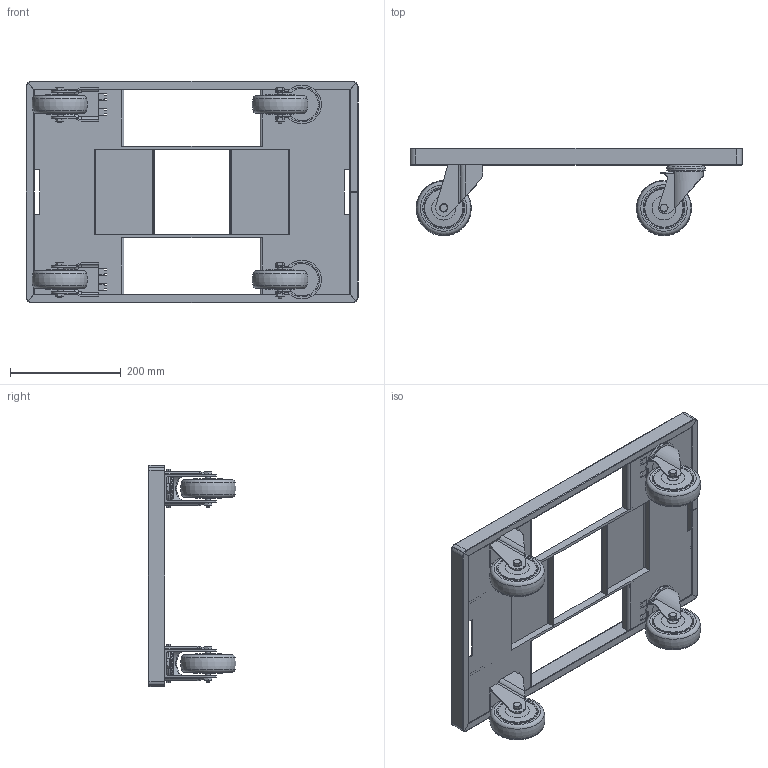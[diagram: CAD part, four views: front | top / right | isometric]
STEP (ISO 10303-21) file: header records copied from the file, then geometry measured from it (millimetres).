
FILE_DESCRIPTION(/* description */ ('STEP AP214'),/* implementation_level */ '2;1');
FILE_NAME(/* name */ '0207D1F2S2WDS03',/* time_stamp */ '2026-01-21T14:38:50+01:00',/* author */ ('License CC BY-ND 4.0'),/* organization */ ('CADENAS'),/* preprocessor_version */ 'ST-DEVELOPER v20',/* originating_system */ 'PARTsolutions',/* authorisation */ ' ');
FILE_SCHEMA (('AUTOMOTIVE_DESIGN {1 0 10303 214 3 1 1}'));
Length unit declared in the file: millimetre
Products named in the file (7): 0207D1F2S2WDS03; 0207D1F2S2WDS03_1; 0207D1F2S2WDS03_2; 0207D1F2S2WDS03_4; 0207D1F2S2WDS03_4b; 0207D1F2S2WDS03_3; 0207D1F2S2WDS03_3b
Assembly tree (13 placements, depth 2):
  0207D1F2S2WDS03
    0207D1F2S2WDS03_1
    0207D1F2S2WDS03_2  x4
    0207D1F2S2WDS03_4  x2
    0207D1F2S2WDS03_4b  x2
    0207D1F2S2WDS03_3  x2
    0207D1F2S2WDS03_3b  x2
Bounding box: 600 x 157.59 x 400 mm (x, y, z)
Volume: 2426381.2 mm3; surface area: 729557.3 mm2
Topology: 13 solids, 13 shells, 706 faces, 1754 edges, 1112 vertices
Faces by surface type: plane 418, cylinder 150, torus 82, cone 56
Full cylindrical faces by diameter (mm): 8 x6, 8.5 x4, 10 x4, 12.5 x2, 13 x2, 15.011 x2, 20 x12, 27 x2, 59 x2, 63 x2, 70 x10
Entity records: 15056 total; most frequent: CARTESIAN_POINT 2685, DIRECTION 2264, ORIENTED_EDGE 2212, EDGE_CURVE 1106, AXIS2_PLACEMENT_3D 767, VERTEX_POINT 758, LINE 730, VECTOR 730
